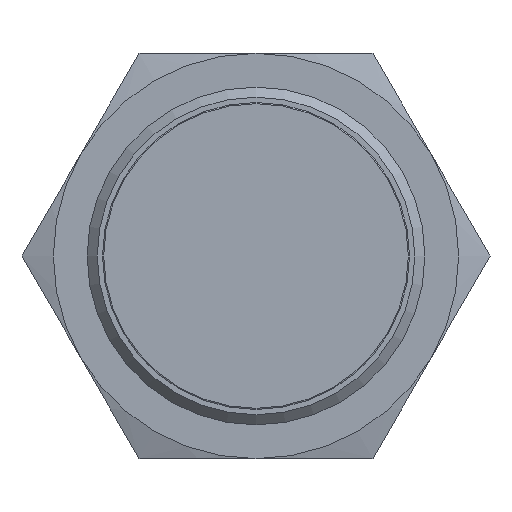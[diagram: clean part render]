
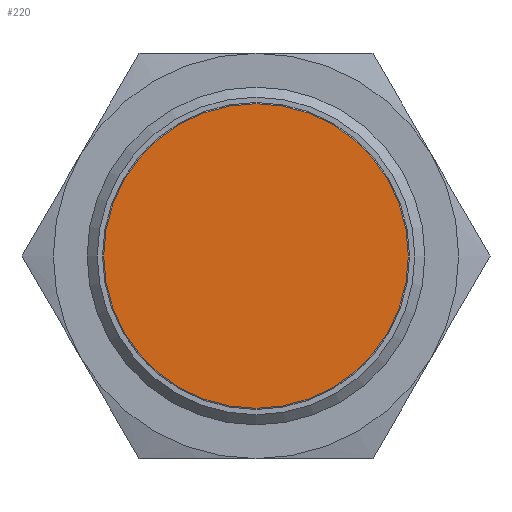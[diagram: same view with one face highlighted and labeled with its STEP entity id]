
A CAD part, left-side view. The second image highlights one B-rep face of the part: STEP entity #220.
In plain terms, the highlighted planar face has unit normal (-1, 0, 0).
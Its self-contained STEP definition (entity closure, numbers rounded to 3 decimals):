
#220 = ADVANCED_FACE( '', ( #361 ), #362, .F. );
#361 = FACE_OUTER_BOUND( '', #530, .T. );
#362 = PLANE( '', #531 );
#530 = EDGE_LOOP( '', ( #799 ) );
#531 = AXIS2_PLACEMENT_3D( '', #800, #801, #802 );
#799 = ORIENTED_EDGE( '', *, *, #1015, .F. );
#800 = CARTESIAN_POINT( '', ( 0., 0., 0. ) );
#801 = DIRECTION( '', ( 1., 0., 0. ) );
#802 = DIRECTION( '', ( 0., 0., -1. ) );
#1015 = EDGE_CURVE( '', #1151, #1151, #1152, .T. );
#1151 = VERTEX_POINT( '', #1482 );
#1152 = CIRCLE( '', #1483, 13.53 );
#1482 = CARTESIAN_POINT( '', ( 0., 0., -13.53 ) );
#1483 = AXIS2_PLACEMENT_3D( '', #1791, #1792, #1793 );
#1791 = CARTESIAN_POINT( '', ( 0., 0., 0. ) );
#1792 = DIRECTION( '', ( 1., 0., 0. ) );
#1793 = DIRECTION( '', ( 0., 0., -1. ) );
